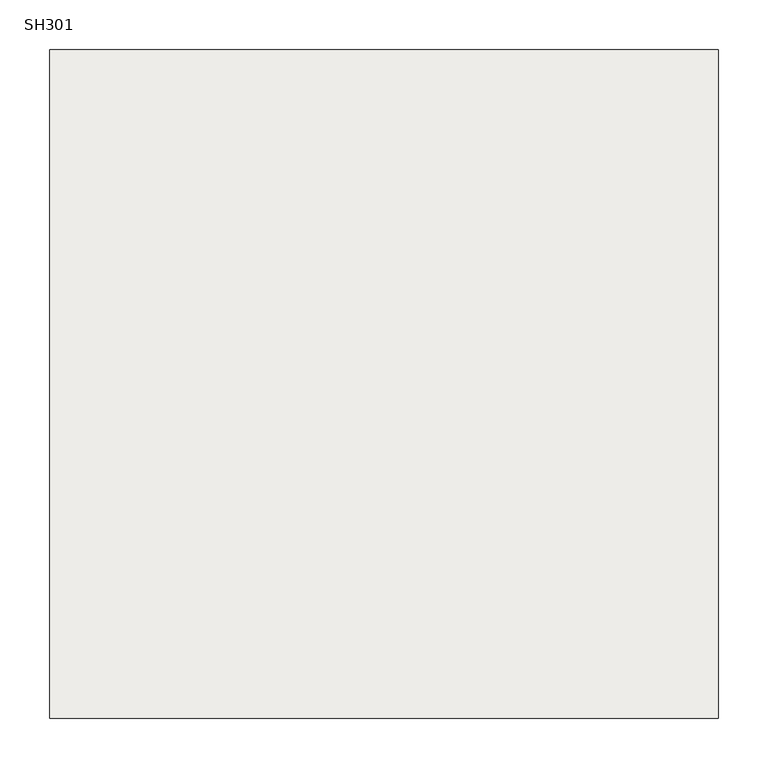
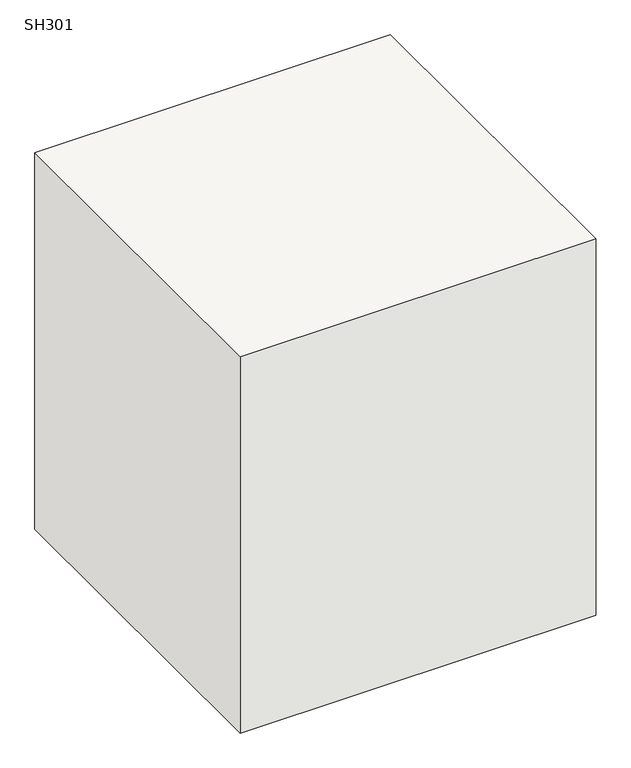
"""IFC4 building model written with IfcOpenShell, lengths in millimetres: slab geometry, 柱形_SH : SH301."""

from ifc_helpers import new_model, si_unit, frame, origin, place, context, project, spatial, polyline, outline, extrude, source, transform, mapped, element, save


def sh301_2fa1b9bb(model_context):
    return source(origin(), model_context, "Body", "SweptSolid", [
        extrude(outline(polyline([(335.0, 335.0), (335.0, -335.0), (-335.0, -335.0), (-335.0, 335.0), (335.0, 335.0)])), frame((0.0, 0.0, -750.0), z_axis=(0.0, 0.0, 1.0), x_axis=(1.0, 0.0, 0.0)), (0.0, 0.0, 1.0), 750.0),
    ])


if __name__ == "__main__":
    model = new_model("IFC4")
    model_context = context("Model", 3, world=origin())
    ifc_project = project(units=[si_unit("LENGTHUNIT", "METRE", prefix="MILLI")], contexts=[model_context])
    site = spatial("IfcSite", under=ifc_project)
    building = spatial("IfcBuilding", under=site)
    placement = place(None, origin())
    sh301_shape = sh301_2fa1b9bb(model_context)
    element("IfcSlab", 1, ObjectType="柱形_SH : SH301", at=placement, inside=building, context=model_context, shape_type="MappedRepresentation", body=[
        mapped(sh301_shape, transform((0.0, 0.0, 0.0), x_axis=(1.0, 0.0, 0.0), y_axis=(0.0, 1.0, 0.0), z_axis=(0.0, 0.0, 1.0))),
    ])
    save(model, "model.ifc")
